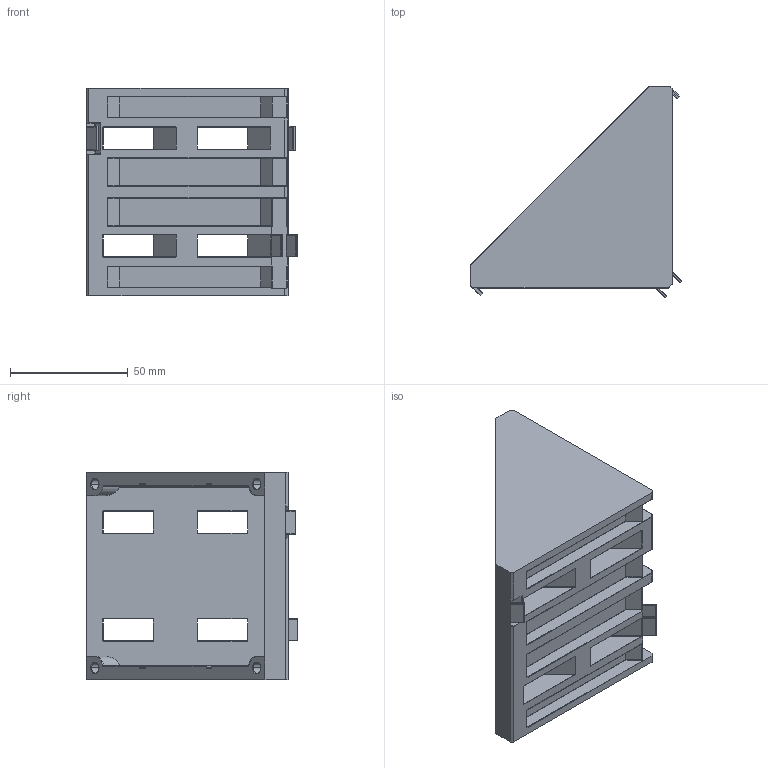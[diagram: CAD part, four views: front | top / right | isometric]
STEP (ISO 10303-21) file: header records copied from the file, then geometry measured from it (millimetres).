
FILE_DESCRIPTION (( 'STEP AP203' ), '1' );
FILE_NAME ('gusset 90 x 90 mm.STEP', '2012-05-29T19:27:11', ( '' ), ( '' ), 'SwSTEP 2.0', 'SolidWorks 2010', '' );
FILE_SCHEMA (( 'CONFIG_CONTROL_DESIGN' ));
Length unit declared in the file: millimetre
Products named in the file (1): gusset  90 x 90 mm
Bounding box: 89.48 x 89.48 x 88 mm (x, y, z)
Volume: 121997.3 mm3; surface area: 53081.8 mm2
Topology: 1 solids, 1 shells, 629 faces, 1491 edges, 860 vertices
Faces by surface type: cylinder 324, plane 160, torus 86, bspline 44, sphere 15
Entity records: 20119 total; most frequent: CARTESIAN_POINT 6152, ORIENTED_EDGE 2958, DIRECTION 2920, EDGE_CURVE 1479, AXIS2_PLACEMENT_3D 1070, VERTEX_POINT 854, LINE 780, VECTOR 780
